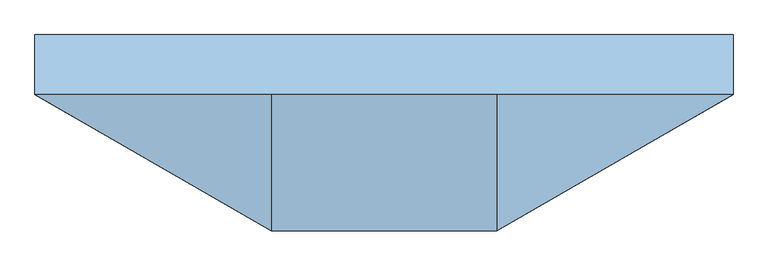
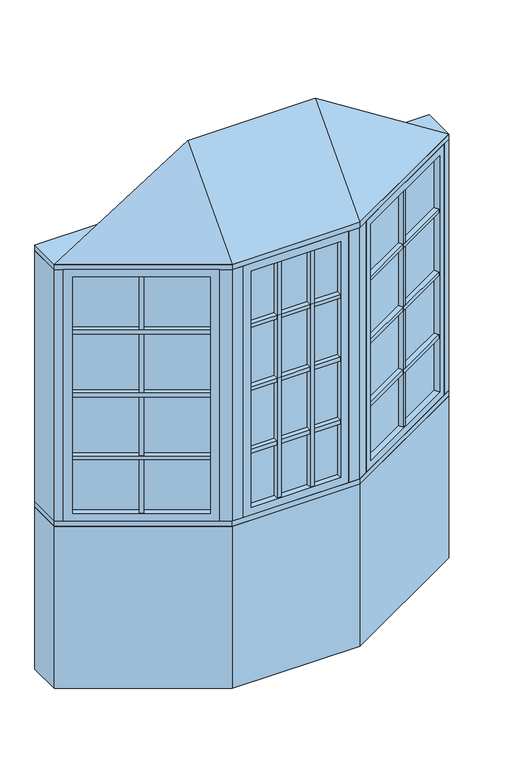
"""IFC4 building model written with IfcOpenShell, lengths in millimetres: window geometry, Pollard_Windows_Tudor Casement Bows and Bays : AML-BAY 30 AFR0512-08-600_GC."""

import ifcopenshell
import ifcopenshell.guid

model = None  # the IFC model being written
_history = None  # IfcOwnerHistory: only IFC2X3 demands one
_inside = {}  # id of a spatial element -> (the spatial element, [elements in it])
_under = {}  # id of a project, library or spatial element -> (it, [spatial elements below it])
_declared = {}  # id of a project -> (the project, [libraries it declares])
_typed = {}  # id of a type object -> (the type object, [elements of that type])
_made_of = {}  # id of a material, layer set ... -> (it, [elements and type objects made of it])


def new_model(schema):
    """Start an empty IFC model of exactly this schema.

    Asked for "IFC4X3", IfcOpenShell would pick the latest addendum, in which some entities
    have other attributes; the version numbers below select the first issue.
    IFC2X3 requires an IfcOwnerHistory on every rooted entity: one is made here for all.
    """
    global model, _history
    if schema == "IFC4X3":
        model = ifcopenshell.file(schema_version=(4, 3, 0, 0))
    else:
        model = ifcopenshell.file(schema=schema)
    _inside.clear()
    _under.clear()
    _declared.clear()
    _typed.clear()
    _made_of.clear()
    _history = None
    if model.schema == "IFC2X3":
        org = make("IfcOrganization", Name="unknown")
        user = make(
            "IfcPersonAndOrganization",
            ThePerson=make("IfcPerson", FamilyName="unknown"),
            TheOrganization=org,
        )
        app = make(
            "IfcApplication",
            ApplicationDeveloper=org,
            Version="unknown",
            ApplicationFullName="unknown",
            ApplicationIdentifier="unknown",
        )
        _history = make(
            "IfcOwnerHistory",
            OwningUser=user,
            OwningApplication=app,
            ChangeAction="ADDED",
            CreationDate=0,
        )
    return model


def make(cls, **values):
    """One entity of the class cls with the attributes given. An attribute that is None is left unset."""
    return model.create_entity(
        cls, **{name: value for name, value in values.items() if value is not None}
    )


def rooted(cls, **values):
    """An entity with a GlobalId (a new one), such as an element, a storey or a relation."""
    return make(cls, GlobalId=ifcopenshell.guid.new(), OwnerHistory=_history, **values)


def si_unit(unit_type, name, prefix=None):
    """IfcSIUnit, for example si_unit("LENGTHUNIT", "METRE", prefix="MILLI")."""
    return make("IfcSIUnit", UnitType=unit_type, Prefix=prefix, Name=name)


def assignment(units):
    """IfcUnitAssignment: the units of a project."""
    return None if units is None else make("IfcUnitAssignment", Units=units)


def point(xyz):
    """IfcCartesianPoint."""
    return None if xyz is None else make("IfcCartesianPoint", Coordinates=xyz)


def direction(xyz):
    """IfcDirection."""
    return None if xyz is None else make("IfcDirection", DirectionRatios=xyz)


def frame(location, z_axis=None, x_axis=None):
    """IfcAxis2Placement3D, a coordinate frame: its origin and axes. An axis left out is left unset."""
    return make(
        "IfcAxis2Placement3D",
        Location=point(location),
        Axis=direction(z_axis),
        RefDirection=direction(x_axis),
    )


def origin():
    """The frame at (0, 0, 0) with its axes left unset."""
    return frame((0.0, 0.0, 0.0))


def origin_with_axes():
    """The frame at (0, 0, 0) with the z axis (0, 0, 1) and the x axis (1, 0, 0) written out."""
    return frame((0.0, 0.0, 0.0), z_axis=(0.0, 0.0, 1.0), x_axis=(1.0, 0.0, 0.0))


def place(relative_to, where):
    """IfcLocalPlacement: puts the frame where relative to a parent placement (None: the world)."""
    return make(
        "IfcLocalPlacement", PlacementRelTo=relative_to, RelativePlacement=where
    )


def context(
    kind, dimensions, precision=None, world=None, true_north=None, identifier=None
):
    """IfcGeometricRepresentationContext, for example the 3D "Model" context."""
    return make(
        "IfcGeometricRepresentationContext",
        ContextIdentifier=identifier,
        ContextType=kind,
        CoordinateSpaceDimension=dimensions,
        Precision=precision,
        WorldCoordinateSystem=world,
        TrueNorth=true_north,
    )


def project(units=None, contexts=None):
    """IfcProject with its units and contexts."""
    return rooted(
        "IfcProject",
        Name="project",
        RepresentationContexts=contexts,
        UnitsInContext=assignment(units),
    )


def spatial(cls, under=None, at=None, **own):
    """A site, building, storey or space (cls), placed at a placement, below another one or the project."""
    s = rooted(cls, ObjectPlacement=at, **own)
    if under is not None:
        _under.setdefault(under.id(), (under, []))[1].append(s)
    return s


def polyline(points):
    """IfcPolyline through the points."""
    return make("IfcPolyline", Points=[point(p) for p in points])


def outline(outer, holes=None, kind="AREA"):
    """IfcArbitraryClosedProfileDef: a profile drawn as a closed curve; with holes, ...WithVoids."""
    if holes is None:
        return make("IfcArbitraryClosedProfileDef", ProfileType=kind, OuterCurve=outer)
    return make(
        "IfcArbitraryProfileDefWithVoids",
        ProfileType=kind,
        OuterCurve=outer,
        InnerCurves=holes,
    )


def extrude(swept, where, along, depth):
    """IfcExtrudedAreaSolid: the profile swept, set in the frame where, extruded along a direction by depth."""
    return make(
        "IfcExtrudedAreaSolid",
        SweptArea=swept,
        Position=where,
        ExtrudedDirection=direction(along),
        Depth=depth,
    )


def faces_of(points, faces, orient=None, outer=None):
    """IfcFace entities. A face is a list of loops; a loop is a list of indices into points, from 0.

    orient and outer hold one flag for each loop. By default every Orientation is true, the
    first loop of a face is its IfcFaceOuterBound and the others are IfcFaceBound.
    """
    made = []
    for i, loops in enumerate(faces):
        bounds = []
        for j, loop in enumerate(loops):
            is_outer = j == 0 if outer is None else outer[i][j]
            bounds.append(
                make(
                    "IfcFaceOuterBound" if is_outer else "IfcFaceBound",
                    Bound=make("IfcPolyLoop", Polygon=[points[k] for k in loop]),
                    Orientation=True if orient is None else orient[i][j],
                )
            )
        made.append(make("IfcFace", Bounds=bounds))
    return made


def faceted_brep(points, faces, orient=None, outer=None, voids=None):
    """IfcFacetedBrep: a solid bounded by flat faces; with voids (closed shells), ...WithVoids."""
    shared = [point(p) for p in points]
    hull = make("IfcClosedShell", CfsFaces=faces_of(shared, faces, orient, outer))
    if voids is None:
        return make("IfcFacetedBrep", Outer=hull)
    return make(
        "IfcFacetedBrepWithVoids",
        Outer=hull,
        Voids=[
            make(cls, CfsFaces=faces_of(shared, fs, o, b)) for cls, fs, o, b in voids
        ],
    )


def shape(context_of_items, identifier, shape_type, items):
    """IfcShapeRepresentation: the items that make up one representation, for example the "Body"."""
    return make(
        "IfcShapeRepresentation",
        ContextOfItems=context_of_items,
        RepresentationIdentifier=identifier,
        RepresentationType=shape_type,
        Items=items,
    )


def source(mapping_origin, context_of_items, identifier, shape_type, items):
    """IfcRepresentationMap: a shape defined once, which mapped items show again and again."""
    return make(
        "IfcRepresentationMap",
        MappingOrigin=mapping_origin,
        MappedRepresentation=shape(context_of_items, identifier, shape_type, items),
    )


def transform(
    local_origin,
    x_axis=None,
    y_axis=None,
    z_axis=None,
    scale=None,
    scale2=None,
    scale3=None,
    uniform=True,
):
    """IfcCartesianTransformationOperator3D, or its non-uniform kind. x_axis, y_axis, z_axis: its Axis1, 2, 3."""
    if uniform:
        return make(
            "IfcCartesianTransformationOperator3D",
            Axis1=direction(x_axis),
            Axis2=direction(y_axis),
            LocalOrigin=point(local_origin),
            Scale=scale,
            Axis3=direction(z_axis),
        )
    return make(
        "IfcCartesianTransformationOperator3DnonUniform",
        Axis1=direction(x_axis),
        Axis2=direction(y_axis),
        LocalOrigin=point(local_origin),
        Scale=scale,
        Axis3=direction(z_axis),
        Scale2=scale2,
        Scale3=scale3,
    )


def mapped(mapping_source, mapping_target):
    """IfcMappedItem: shows the shape of a source again, moved by a transform."""
    return make(
        "IfcMappedItem", MappingSource=mapping_source, MappingTarget=mapping_target
    )


def made_of(thing, what):
    """Note that an element or type object is made of a material, layer set ...; save() writes the relation."""
    if what is not None:
        _made_of.setdefault(what.id(), (what, []))[1].append(thing)
    return thing


def element(
    cls,
    number,
    at=None,
    inside=None,
    cuts=None,
    type_object=None,
    material=None,
    context=None,
    identifier="Body",
    shape_type=None,
    held_by="IfcProductDefinitionShape",
    body=None,
    shapes=None,
    **own,
):
    """One element of the class cls, such as IfcWall. Its Tag is "e" and its number.

    at: its placement. inside: the storey or other place that contains it. cuts: it is an
    opening in that element (IfcRelVoidsElement). A single representation is given by context,
    identifier, shape_type and body (its items); several are given by shapes. held_by: the class
    of the entity that holds the representations. save() writes the other relations.
    """
    e = rooted(cls, Tag="e%d" % number, ObjectPlacement=at, **own)
    if body is not None:
        shapes = [shape(context, identifier, shape_type, body)]
    if shapes is not None:
        e.Representation = make(held_by, Representations=shapes)
    if inside is not None:
        _inside.setdefault(inside.id(), (inside, []))[1].append(e)
    if cuts is not None:
        rooted(
            "IfcRelVoidsElement", RelatingBuildingElement=cuts, RelatedOpeningElement=e
        )
    if type_object is not None:
        _typed.setdefault(type_object.id(), (type_object, []))[1].append(e)
    return made_of(e, material)


def aggregate(whole, parts):
    """IfcRelAggregates: a whole, such as a stair, and the parts it consists of."""
    return rooted("IfcRelAggregates", RelatingObject=whole, RelatedObjects=parts)


def save(model, path):
    """Write the relations noted so far, then the file.

    IfcRelAggregates (storeys below a building ...), IfcRelContainedInSpatialStructure (elements
    in a storey), IfcRelDefinesByType, IfcRelAssociatesMaterial and IfcRelDeclares: one each for
    every whole, place, type object, material and project.
    """
    for whole, parts in _under.values():
        aggregate(whole, parts)
    for where, things in _inside.values():
        rooted(
            "IfcRelContainedInSpatialStructure",
            RelatedElements=things,
            RelatingStructure=where,
        )
    for kind, things in _typed.values():
        rooted("IfcRelDefinesByType", RelatedObjects=things, RelatingType=kind)
    for what, things in _made_of.values():
        rooted("IfcRelAssociatesMaterial", RelatedObjects=things, RelatingMaterial=what)
    for by, libraries in _declared.values():
        rooted("IfcRelDeclares", RelatingContext=by, RelatedDefinitions=libraries)
    model.write(path)


def window_12f96043(model_context):
    return source(origin(), model_context, "Body", "SolidModel", [
        extrude(outline(polyline([(360.381999, -376.6297343), (349.381999, -357.5771754), (815.6135794, -88.3982469), (826.6135794, -107.4508058), (360.381999, -376.6297343)])), frame((0.0, 0.0, 1390.998), z_axis=(0.0, 0.0, 1.0), x_axis=(1.0, 0.0, 0.0)), (0.0, 0.0, 1.0), 18.0),
        extrude(outline(polyline([(346.841999, -353.1777664), (335.841999, -334.1252075), (802.0735794, -64.946279), (813.0735794, -83.9988379), (346.841999, -353.1777664)])), frame((0.0, 0.0, 1390.998), z_axis=(0.0, 0.0, 1.0), x_axis=(1.0, 0.0, 0.0)), (0.0, 0.0, 1.0), 18.0),
        extrude(outline(polyline([(360.381999, -376.6297343), (349.381999, -357.5771754), (815.6135794, -88.3982469), (826.6135794, -107.4508058), (360.381999, -376.6297343)])), frame((0.0, 0.0, 1090.998), z_axis=(0.0, 0.0, 1.0), x_axis=(1.0, 0.0, 0.0)), (0.0, 0.0, 1.0), 18.0),
        extrude(outline(polyline([(346.841999, -353.1777664), (335.841999, -334.1252075), (802.0735794, -64.946279), (813.0735794, -83.9988379), (346.841999, -353.1777664)])), frame((0.0, 0.0, 1090.998), z_axis=(0.0, 0.0, 1.0), x_axis=(1.0, 0.0, 0.0)), (0.0, 0.0, 1.0), 18.0),
        extrude(outline(polyline([(360.381999, -376.6297343), (349.381999, -357.5771754), (815.6135794, -88.3982469), (826.6135794, -107.4508058), (360.381999, -376.6297343)])), frame((0.0, 0.0, 1390.998), z_axis=(0.0, 0.0, 1.0), x_axis=(1.0, 0.0, 0.0)), (0.0, 0.0, 1.0), 18.0),
        extrude(outline(polyline([(346.841999, -353.1777664), (335.841999, -334.1252075), (802.0735794, -64.946279), (813.0735794, -83.9988379), (346.841999, -353.1777664)])), frame((0.0, 0.0, 1390.998), z_axis=(0.0, 0.0, 1.0), x_axis=(1.0, 0.0, 0.0)), (0.0, 0.0, 1.0), 18.0),
        extrude(outline(polyline([(360.381999, -376.6297343), (349.381999, -357.5771754), (815.6135794, -88.3982469), (826.6135794, -107.4508058), (360.381999, -376.6297343)])), frame((0.0, 0.0, 1390.998), z_axis=(0.0, 0.0, 1.0), x_axis=(1.0, 0.0, 0.0)), (0.0, 0.0, 1.0), 18.0),
        extrude(outline(polyline([(346.841999, -353.1777664), (335.841999, -334.1252075), (802.0735794, -64.946279), (813.0735794, -83.9988379), (346.841999, -353.1777664)])), frame((0.0, 0.0, 1390.998), z_axis=(0.0, 0.0, 1.0), x_axis=(1.0, 0.0, 0.0)), (0.0, 0.0, 1.0), 18.0),
        extrude(outline(polyline([(360.381999, -376.6297343), (349.381999, -357.5771754), (815.6135794, -88.3982469), (826.6135794, -107.4508058), (360.381999, -376.6297343)])), frame((0.0, 0.0, 1690.998), z_axis=(0.0, 0.0, 1.0), x_axis=(1.0, 0.0, 0.0)), (0.0, 0.0, 1.0), 18.0),
        extrude(outline(polyline([(346.841999, -353.1777664), (335.841999, -334.1252075), (802.0735794, -64.946279), (813.0735794, -83.9988379), (346.841999, -353.1777664)])), frame((0.0, 0.0, 1690.998), z_axis=(0.0, 0.0, 1.0), x_axis=(1.0, 0.0, 0.0)), (0.0, 0.0, 1.0), 18.0),
        extrude(outline(polyline([(590.2920178, -218.4877112), (601.2920178, -237.5402701), (585.7035606, -246.5402701), (574.7035606, -227.4877112), (590.2920178, -218.4877112)])), frame((0.0, 0.0, 835.8628), z_axis=(0.0, 0.0, 1.0), x_axis=(1.0, 0.0, 0.0)), (0.0, 0.0, 1.0), 1128.2704),
        extrude(outline(polyline([(587.7520178, -214.0883021), (572.1635606, -223.0883021), (561.1635606, -204.0357432), (576.7520178, -195.0357432), (587.7520178, -214.0883021)])), frame((0.0, 0.0, 835.8628), z_axis=(0.0, 0.0, 1.0), x_axis=(1.0, 0.0, 0.0)), (0.0, 0.0, 1.0), 1128.2704),
        extrude(outline(polyline([(826.612102, -82.0482469), (338.3834764, -363.9271754), (335.8434764, -359.5277664), (824.072102, -77.6488379), (826.612102, -82.0482469)])), frame((0.0, 0.0, 823.1628), z_axis=(0.0, 0.0, 1.0), x_axis=(1.0, 0.0, 0.0)), (0.0, 0.0, 1.0), 1153.6704),
        faceted_brep([(815.6135794, -88.3982469, 835.8628), (828.3135794, -110.3952922, 835.8628), (828.3135794, -110.3952922, 1964.1332), (815.6135794, -88.3982469, 1964.1332), (824.072102, -77.6488379, 823.1628), (826.612102, -82.0482469, 823.1628), (826.612102, -82.0482469, 1976.8332), (824.072102, -77.6488379, 1976.8332), (800.3735794, -62.0017926, 835.8628), (813.0735794, -83.9988379, 835.8628), (813.0735794, -83.9988379, 1964.1332), (800.3735794, -62.0017926, 1964.1332), (859.3734073, -92.4628922, 799.998), (831.4334073, -44.0693926, 799.998), (831.4334073, -44.0693926, 1999.998), (859.3734073, -92.4628922, 1999.998), (362.081999, -379.5742207, 1964.1332), (349.381999, -357.5771754, 1964.1332), (338.3834764, -363.9271754, 1976.8332), (335.8434764, -359.5277664, 1976.8332), (346.841999, -353.1777664, 1964.1332), (334.141999, -331.1807211, 1964.1332), (303.0821711, -349.1131211, 1999.998), (331.0221711, -397.5066207, 1999.998), (362.081999, -379.5742207, 835.8628), (349.381999, -357.5771754, 835.8628), (338.3834764, -363.9271754, 823.1628), (335.8434764, -359.5277664, 823.1628), (346.841999, -353.1777664, 835.8628), (334.141999, -331.1807211, 835.8628), (303.0821711, -349.1131211, 799.998), (331.0221711, -397.5066207, 799.998)], [[[0, 1, 2, 3]], [[4, 5, 6, 7]], [[8, 9, 10, 11]], [[12, 13, 14, 15]], [[3, 2, 16, 17]], [[7, 6, 18, 19]], [[11, 10, 20, 21]], [[15, 14, 22, 23]], [[17, 16, 24, 25]], [[19, 18, 26, 27]], [[21, 20, 28, 29]], [[23, 22, 30, 31]], [[25, 24, 1, 0]], [[5, 26, 18, 6], [3, 17, 25, 0]], [[27, 26, 5, 4]], [[7, 19, 27, 4], [9, 28, 20, 10]], [[29, 28, 9, 8]], [[13, 30, 22, 14], [11, 21, 29, 8]], [[31, 30, 13, 12]], [[15, 23, 31, 12], [1, 24, 16, 2]]]),
        extrude(outline(polyline([(83.5188336, -397.1066207), (83.5188336, -419.1066207), (65.5188336, -419.1066207), (65.5188336, -397.1066207), (83.5188336, -397.1066207)])), frame((0.0, 0.0, 835.8628), z_axis=(0.0, 0.0, 1.0), x_axis=(1.0, 0.0, 0.0)), (0.0, 0.0, 1.0), 1128.2704),
        extrude(outline(polyline([(83.5188336, -392.0266207), (65.5188336, -392.0266207), (65.5188336, -370.0266207), (83.5188336, -370.0266207), (83.5188336, -392.0266207)])), frame((0.0, 0.0, 835.8628), z_axis=(0.0, 0.0, 1.0), x_axis=(1.0, 0.0, 0.0)), (0.0, 0.0, 1.0), 1128.2704),
        extrude(outline(polyline([(-65.5188336, -397.1066207), (-65.5188336, -419.1066207), (-83.5188336, -419.1066207), (-83.5188336, -397.1066207), (-65.5188336, -397.1066207)])), frame((0.0, 0.0, 835.8628), z_axis=(0.0, 0.0, 1.0), x_axis=(1.0, 0.0, 0.0)), (0.0, 0.0, 1.0), 1128.2704),
        extrude(outline(polyline([(-65.5188336, -392.0266207), (-83.5188336, -392.0266207), (-83.5188336, -370.0266207), (-65.5188336, -370.0266207), (-65.5188336, -392.0266207)])), frame((0.0, 0.0, 835.8628), z_axis=(0.0, 0.0, 1.0), x_axis=(1.0, 0.0, 0.0)), (0.0, 0.0, 1.0), 1128.2704),
        extrude(outline(polyline([(-201.8561009, -419.1066207), (-201.8561009, -397.1066207), (201.8561009, -397.1066207), (201.8561009, -419.1066207), (-201.8561009, -419.1066207)])), frame((0.0, 0.0, 1090.998), z_axis=(0.0, 0.0, 1.0), x_axis=(1.0, 0.0, 0.0)), (0.0, 0.0, 1.0), 18.0),
        extrude(outline(polyline([(-201.8561009, -392.0266207), (-201.8561009, -370.0266207), (201.8561009, -370.0266207), (201.8561009, -392.0266207), (-201.8561009, -392.0266207)])), frame((0.0, 0.0, 1090.998), z_axis=(0.0, 0.0, 1.0), x_axis=(1.0, 0.0, 0.0)), (0.0, 0.0, 1.0), 18.0),
        extrude(outline(polyline([(-201.8561009, -419.1066207), (-201.8561009, -397.1066207), (201.8561009, -397.1066207), (201.8561009, -419.1066207), (-201.8561009, -419.1066207)])), frame((0.0, 0.0, 1390.998), z_axis=(0.0, 0.0, 1.0), x_axis=(1.0, 0.0, 0.0)), (0.0, 0.0, 1.0), 18.0),
        extrude(outline(polyline([(-201.8561009, -392.0266207), (-201.8561009, -370.0266207), (201.8561009, -370.0266207), (201.8561009, -392.0266207), (-201.8561009, -392.0266207)])), frame((0.0, 0.0, 1390.998), z_axis=(0.0, 0.0, 1.0), x_axis=(1.0, 0.0, 0.0)), (0.0, 0.0, 1.0), 18.0),
        extrude(outline(polyline([(-201.8561009, -419.1066207), (-201.8561009, -397.1066207), (201.8561009, -397.1066207), (201.8561009, -419.1066207), (-201.8561009, -419.1066207)])), frame((0.0, 0.0, 1390.998), z_axis=(0.0, 0.0, 1.0), x_axis=(1.0, 0.0, 0.0)), (0.0, 0.0, 1.0), 18.0),
        extrude(outline(polyline([(-201.8561009, -392.0266207), (-201.8561009, -370.0266207), (201.8561009, -370.0266207), (201.8561009, -392.0266207), (-201.8561009, -392.0266207)])), frame((0.0, 0.0, 1390.998), z_axis=(0.0, 0.0, 1.0), x_axis=(1.0, 0.0, 0.0)), (0.0, 0.0, 1.0), 18.0),
        extrude(outline(polyline([(-201.8561009, -419.1066207), (-201.8561009, -397.1066207), (201.8561009, -397.1066207), (201.8561009, -419.1066207), (-201.8561009, -419.1066207)])), frame((0.0, 0.0, 1390.998), z_axis=(0.0, 0.0, 1.0), x_axis=(1.0, 0.0, 0.0)), (0.0, 0.0, 1.0), 18.0),
        extrude(outline(polyline([(-201.8561009, -392.0266207), (-201.8561009, -370.0266207), (201.8561009, -370.0266207), (201.8561009, -392.0266207), (-201.8561009, -392.0266207)])), frame((0.0, 0.0, 1390.998), z_axis=(0.0, 0.0, 1.0), x_axis=(1.0, 0.0, 0.0)), (0.0, 0.0, 1.0), 18.0),
        extrude(outline(polyline([(-826.6135794, -107.4508058), (-815.6135794, -88.3982469), (-349.381999, -357.5771754), (-360.381999, -376.6297343), (-826.6135794, -107.4508058)])), frame((0.0, 0.0, 1090.998), z_axis=(0.0, 0.0, 1.0), x_axis=(1.0, 0.0, 0.0)), (0.0, 0.0, 1.0), 18.0),
        extrude(outline(polyline([(-813.0735794, -83.9988379), (-802.0735794, -64.946279), (-335.841999, -334.1252075), (-346.841999, -353.1777664), (-813.0735794, -83.9988379)])), frame((0.0, 0.0, 1090.998), z_axis=(0.0, 0.0, 1.0), x_axis=(1.0, 0.0, 0.0)), (0.0, 0.0, 1.0), 18.0),
        extrude(outline(polyline([(-826.6135794, -107.4508058), (-815.6135794, -88.3982469), (-349.381999, -357.5771754), (-360.381999, -376.6297343), (-826.6135794, -107.4508058)])), frame((0.0, 0.0, 1390.998), z_axis=(0.0, 0.0, 1.0), x_axis=(1.0, 0.0, 0.0)), (0.0, 0.0, 1.0), 18.0),
        extrude(outline(polyline([(-813.0735794, -83.9988379), (-802.0735794, -64.946279), (-335.841999, -334.1252075), (-346.841999, -353.1777664), (-813.0735794, -83.9988379)])), frame((0.0, 0.0, 1390.998), z_axis=(0.0, 0.0, 1.0), x_axis=(1.0, 0.0, 0.0)), (0.0, 0.0, 1.0), 18.0),
        extrude(outline(polyline([(-826.6135794, -107.4508058), (-815.6135794, -88.3982469), (-349.381999, -357.5771754), (-360.381999, -376.6297343), (-826.6135794, -107.4508058)])), frame((0.0, 0.0, 1390.998), z_axis=(0.0, 0.0, 1.0), x_axis=(1.0, 0.0, 0.0)), (0.0, 0.0, 1.0), 18.0),
        extrude(outline(polyline([(-813.0735794, -83.9988379), (-802.0735794, -64.946279), (-335.841999, -334.1252075), (-346.841999, -353.1777664), (-813.0735794, -83.9988379)])), frame((0.0, 0.0, 1390.998), z_axis=(0.0, 0.0, 1.0), x_axis=(1.0, 0.0, 0.0)), (0.0, 0.0, 1.0), 18.0),
        extrude(outline(polyline([(-826.6135794, -107.4508058), (-815.6135794, -88.3982469), (-349.381999, -357.5771754), (-360.381999, -376.6297343), (-826.6135794, -107.4508058)])), frame((0.0, 0.0, 1390.998), z_axis=(0.0, 0.0, 1.0), x_axis=(1.0, 0.0, 0.0)), (0.0, 0.0, 1.0), 18.0),
        extrude(outline(polyline([(-813.0735794, -83.9988379), (-802.0735794, -64.946279), (-335.841999, -334.1252075), (-346.841999, -353.1777664), (-813.0735794, -83.9988379)])), frame((0.0, 0.0, 1390.998), z_axis=(0.0, 0.0, 1.0), x_axis=(1.0, 0.0, 0.0)), (0.0, 0.0, 1.0), 18.0),
        extrude(outline(polyline([(-826.6135794, -107.4508058), (-815.6135794, -88.3982469), (-349.381999, -357.5771754), (-360.381999, -376.6297343), (-826.6135794, -107.4508058)])), frame((0.0, 0.0, 1690.998), z_axis=(0.0, 0.0, 1.0), x_axis=(1.0, 0.0, 0.0)), (0.0, 0.0, 1.0), 18.0),
        extrude(outline(polyline([(-813.0735794, -83.9988379), (-802.0735794, -64.946279), (-335.841999, -334.1252075), (-346.841999, -353.1777664), (-813.0735794, -83.9988379)])), frame((0.0, 0.0, 1690.998), z_axis=(0.0, 0.0, 1.0), x_axis=(1.0, 0.0, 0.0)), (0.0, 0.0, 1.0), 18.0),
        extrude(outline(polyline([(-201.8561009, -419.1066207), (-201.8561009, -397.1066207), (201.8561009, -397.1066207), (201.8561009, -419.1066207), (-201.8561009, -419.1066207)])), frame((0.0, 0.0, 1690.998), z_axis=(0.0, 0.0, 1.0), x_axis=(1.0, 0.0, 0.0)), (0.0, 0.0, 1.0), 18.0),
        extrude(outline(polyline([(-201.8561009, -392.0266207), (-201.8561009, -370.0266207), (201.8561009, -370.0266207), (201.8561009, -392.0266207), (-201.8561009, -392.0266207)])), frame((0.0, 0.0, 1690.998), z_axis=(0.0, 0.0, 1.0), x_axis=(1.0, 0.0, 0.0)), (0.0, 0.0, 1.0), 18.0),
        extrude(outline(polyline([(-574.7035606, -227.4877112), (-585.7035606, -246.5402701), (-601.2920178, -237.5402701), (-590.2920178, -218.4877112), (-574.7035606, -227.4877112)])), frame((0.0, 0.0, 835.8628), z_axis=(0.0, 0.0, 1.0), x_axis=(1.0, 0.0, 0.0)), (0.0, 0.0, 1.0), 1128.2704),
        extrude(outline(polyline([(-572.1635606, -223.0883021), (-587.7520178, -214.0883021), (-576.7520178, -195.0357432), (-561.1635606, -204.0357432), (-572.1635606, -223.0883021)])), frame((0.0, 0.0, 835.8628), z_axis=(0.0, 0.0, 1.0), x_axis=(1.0, 0.0, 0.0)), (0.0, 0.0, 1.0), 1128.2704),
        extrude(outline(polyline([(-338.3834764, -363.9271754), (-826.612102, -82.0482469), (-824.072102, -77.6488379), (-335.8434764, -359.5277664), (-338.3834764, -363.9271754)])), frame((0.0, 0.0, 823.1628), z_axis=(0.0, 0.0, 1.0), x_axis=(1.0, 0.0, 0.0)), (0.0, 0.0, 1.0), 1153.6704),
        faceted_brep([(-346.841999, -353.1777664, 1964.1332), (-334.141999, -331.1807211, 1964.1332), (-334.141999, -331.1807211, 835.8628), (-346.841999, -353.1777664, 835.8628), (-338.3834764, -363.9271754, 1976.8332), (-335.8434764, -359.5277664, 1976.8332), (-335.8434764, -359.5277664, 823.1628), (-338.3834764, -363.9271754, 823.1628), (-362.081999, -379.5742207, 1964.1332), (-349.381999, -357.5771754, 1964.1332), (-349.381999, -357.5771754, 835.8628), (-362.081999, -379.5742207, 835.8628), (-303.0821711, -349.1131211, 1999.998), (-331.0221711, -397.5066207, 1999.998), (-331.0221711, -397.5066207, 799.998), (-303.0821711, -349.1131211, 799.998), (-800.3735794, -62.0017926, 835.8628), (-813.0735794, -83.9988379, 835.8628), (-824.072102, -77.6488379, 823.1628), (-826.612102, -82.0482469, 823.1628), (-815.6135794, -88.3982469, 835.8628), (-828.3135794, -110.3952922, 835.8628), (-859.3734073, -92.4628922, 799.998), (-831.4334073, -44.0693926, 799.998), (-800.3735794, -62.0017926, 1964.1332), (-813.0735794, -83.9988379, 1964.1332), (-824.072102, -77.6488379, 1976.8332), (-826.612102, -82.0482469, 1976.8332), (-815.6135794, -88.3982469, 1964.1332), (-828.3135794, -110.3952922, 1964.1332), (-859.3734073, -92.4628922, 1999.998), (-831.4334073, -44.0693926, 1999.998)], [[[0, 1, 2, 3]], [[4, 5, 6, 7]], [[8, 9, 10, 11]], [[12, 13, 14, 15]], [[3, 2, 16, 17]], [[7, 6, 18, 19]], [[11, 10, 20, 21]], [[15, 14, 22, 23]], [[17, 16, 24, 25]], [[19, 18, 26, 27]], [[21, 20, 28, 29]], [[23, 22, 30, 31]], [[15, 23, 31, 12], [1, 24, 16, 2]], [[25, 24, 1, 0]], [[5, 26, 18, 6], [3, 17, 25, 0]], [[27, 26, 5, 4]], [[7, 19, 27, 4], [9, 28, 20, 10]], [[29, 28, 9, 8]], [[13, 30, 22, 14], [11, 21, 29, 8]], [[31, 30, 13, 12]]]),
        extrude(outline(polyline([(214.5561009, -397.1066207), (-214.5561009, -397.1066207), (-214.5561009, -392.0266207), (214.5561009, -392.0266207), (214.5561009, -397.1066207)])), frame((0.0, 0.0, 823.1628), z_axis=(0.0, 0.0, 1.0), x_axis=(1.0, 0.0, 0.0)), (0.0, 0.0, 1.0), 1153.6704),
        faceted_brep([(201.8561009, -397.1066207, 835.8628), (201.8561009, -422.5066207, 835.8628), (201.8561009, -422.5066207, 1964.1332), (201.8561009, -397.1066207, 1964.1332), (214.5561009, -392.0266207, 823.1628), (214.5561009, -397.1066207, 823.1628), (214.5561009, -397.1066207, 1976.8332), (214.5561009, -392.0266207, 1976.8332), (201.8561009, -366.6266207, 835.8628), (201.8561009, -392.0266207, 835.8628), (201.8561009, -392.0266207, 1964.1332), (201.8561009, -366.6266207, 1964.1332), (237.7209009, -422.5066207, 799.998), (237.7209009, -366.6266207, 799.998), (237.7209009, -366.6266207, 1999.998), (237.7209009, -422.5066207, 1999.998), (-201.8561009, -422.5066207, 1964.1332), (-201.8561009, -397.1066207, 1964.1332), (-214.5561009, -397.1066207, 1976.8332), (-214.5561009, -392.0266207, 1976.8332), (-201.8561009, -392.0266207, 1964.1332), (-201.8561009, -366.6266207, 1964.1332), (-237.7209009, -366.6266207, 1999.998), (-237.7209009, -422.5066207, 1999.998), (-201.8561009, -422.5066207, 835.8628), (-201.8561009, -397.1066207, 835.8628), (-214.5561009, -397.1066207, 823.1628), (-214.5561009, -392.0266207, 823.1628), (-201.8561009, -392.0266207, 835.8628), (-201.8561009, -366.6266207, 835.8628), (-237.7209009, -366.6266207, 799.998), (-237.7209009, -422.5066207, 799.998)], [[[0, 1, 2, 3]], [[4, 5, 6, 7]], [[8, 9, 10, 11]], [[12, 13, 14, 15]], [[3, 2, 16, 17]], [[7, 6, 18, 19]], [[11, 10, 20, 21]], [[15, 14, 22, 23]], [[17, 16, 24, 25]], [[19, 18, 26, 27]], [[21, 20, 28, 29]], [[23, 22, 30, 31]], [[15, 23, 31, 12], [1, 24, 16, 2]], [[25, 24, 1, 0]], [[5, 26, 18, 6], [3, 17, 25, 0]], [[27, 26, 5, 4]], [[7, 19, 27, 4], [9, 28, 20, 10]], [[29, 28, 9, 8]], [[13, 30, 22, 14], [11, 21, 29, 8]], [[31, 30, 13, 12]]]),
        faceted_brep([(890.0, -74.7806207, 2025.398), (287.7209009, -422.5066207, 2025.398), (-287.7209009, -422.5066207, 2025.398), (-890.0, -74.7806207, 2025.398), (-287.7209009, -74.7806207, 2406.398), (287.7209009, -74.7806207, 2406.398)], [[[0, 1, 2, 3]], [[3, 2, 4]], [[2, 1, 5, 4]], [[1, 0, 5]], [[0, 3, 4, 5]]]),
        extrude(outline(polyline([(-890.0, 77.6193793), (890.0, 77.6193793), (890.0, -74.7806207), (287.7209009, -422.5066207), (-287.7209009, -422.5066207), (-890.0, -74.7806207), (-890.0, 77.6193793)])), frame((0.0, 0.0, 1999.998), z_axis=(0.0, 0.0, 1.0), x_axis=(1.0, 0.0, 0.0)), (0.0, 0.0, 1.0), 25.4),
        extrude(outline(polyline([(-890.0, -74.7806207), (-890.0, 77.6193793), (-849.1645431, 77.6193793), (-849.1645431, -74.7806207), (-859.3734073, -92.4628922), (-890.0, -74.7806207)])), frame((0.0, 0.0, 799.998), z_axis=(0.0, 0.0, 1.0), x_axis=(1.0, 0.0, 0.0)), (0.0, 0.0, 1.0), 1200.0),
        extrude(outline(polyline([(890.0, 77.6193793), (890.0, -74.7806207), (859.3734073, -92.4628922), (849.1645431, -74.7806207), (849.1645431, 77.6193793), (890.0, 77.6193793)])), frame((0.0, 0.0, 799.998), z_axis=(0.0, 0.0, 1.0), x_axis=(1.0, 0.0, 0.0)), (0.0, 0.0, 1.0), 1200.0),
        extrude(outline(polyline([(287.7209009, -422.5066207), (237.7209009, -422.5066207), (237.7209009, -372.5066207), (274.3234413, -372.5066207), (306.0221711, -354.2053505), (331.0221711, -397.5066207), (287.7209009, -422.5066207)])), frame((0.0, 0.0, 799.998), z_axis=(0.0, 0.0, 1.0), x_axis=(1.0, 0.0, 0.0)), (0.0, 0.0, 1.0), 1200.0),
        extrude(outline(polyline([(-287.7209009, -422.5066207), (-331.0221711, -397.5066207), (-306.0221711, -354.2053505), (-274.3234413, -372.5066207), (-237.7209009, -372.5066207), (-237.7209009, -422.5066207), (-287.7209009, -422.5066207)])), frame((0.0, 0.0, 799.998), z_axis=(0.0, 0.0, 1.0), x_axis=(1.0, 0.0, 0.0)), (0.0, 0.0, 1.0), 1200.0),
        extrude(outline(polyline([(-287.7209009, -422.5066207), (-890.0, -74.7806207), (-890.0, 77.6193793), (-849.1645431, 77.6193793), (-246.885444, -270.1066207), (246.885444, -270.1066207), (849.1645431, 77.6193793), (890.0, 77.6193793), (890.0, -74.7806207), (287.7209009, -422.5066207), (-287.7209009, -422.5066207)])), frame((0.0, 0.0, 774.598), z_axis=(0.0, 0.0, 1.0), x_axis=(1.0, 0.0, 0.0)), (0.0, 0.0, 1.0), 25.4),
        extrude(outline(polyline([(-890.0, -74.7806207), (-890.0, 77.6193793), (-849.1645431, 77.6193793), (-246.885444, -270.1066207), (246.885444, -270.1066207), (849.1645431, 77.6193793), (890.0, 77.6193793), (890.0, -74.7806207), (287.7209009, -422.5066207), (-287.7209009, -422.5066207), (-890.0, -74.7806207)])), origin_with_axes(), (0.0, 0.0, 1.0), 774.598),
    ])


if __name__ == "__main__":
    model = new_model("IFC4")
    model_context = context("Model", 3, world=origin())
    ifc_project = project(units=[si_unit("LENGTHUNIT", "METRE", prefix="MILLI")], contexts=[model_context])
    site = spatial("IfcSite", under=ifc_project)
    building = spatial("IfcBuilding", under=site)
    placement = place(None, origin())
    window_shape = window_12f96043(model_context)
    element("IfcWindow", 1, ObjectType="Pollard_Windows_Tudor Casement Bows and Bays : AML-BAY 30 AFR0512-08-600_GC", at=placement, inside=building, context=model_context, shape_type="MappedRepresentation", body=[
        mapped(window_shape, transform((0.0, 0.0, 0.0), x_axis=(1.0, 0.0, 0.0), y_axis=(0.0, 1.0, 0.0), z_axis=(0.0, 0.0, 1.0))),
    ])
    save(model, "model.ifc")
